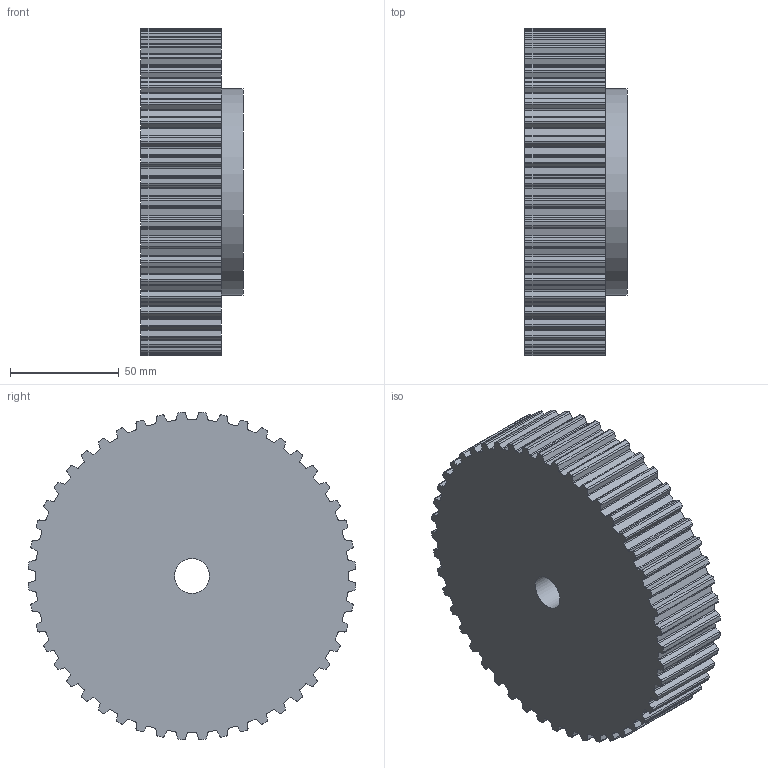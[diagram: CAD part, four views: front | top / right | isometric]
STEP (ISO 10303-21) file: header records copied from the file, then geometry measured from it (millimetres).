
FILE_DESCRIPTION( ( 'STEP AP203' ), '1' );
FILE_NAME( 'C:/Users/Stangenbergd/Documents/CAD_Step/1/16444800.stp', '2020-09-13T08:47:48', ( 'License CC BY-ND 4.0' ), ( 'CADENAS' ), ' ', 'PARTsolutions', ' ' );
FILE_SCHEMA( ( 'CONFIG_CONTROL_DESIGN' ) );
Length unit declared in the file: millimetre
Products named in the file (1): _16444800
Bounding box: 47 x 150.73 x 150.73 mm (x, y, z)
Volume: 691058.8 mm3; surface area: 63839.2 mm2
Topology: 1 solids, 1 shells, 389 faces, 1158 edges, 772 vertices
Faces by surface type: cylinder 242, plane 147
Full cylindrical faces by diameter (mm): 16 x1, 95 x1
Entity records: 13294 total; most frequent: DIRECTION 2420, CARTESIAN_POINT 2318, ORIENTED_EDGE 2312, EDGE_CURVE 1156, AXIS2_PLACEMENT_3D 874, VERTEX_POINT 772, LINE 672, VECTOR 672
